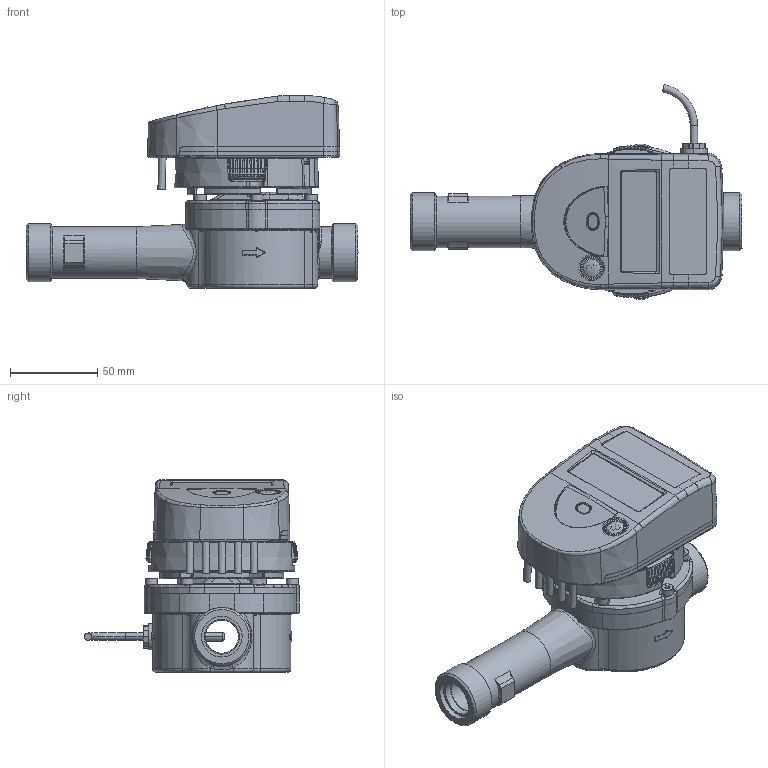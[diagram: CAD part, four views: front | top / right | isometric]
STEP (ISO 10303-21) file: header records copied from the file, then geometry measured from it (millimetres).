
FILE_DESCRIPTION(/* description */ ('Unknown'),/* implementation_level */ '2;1');
FILE_NAME(/* name */ '749_qp1.5_190mm avec calculateur et sonde JUMO (vide)',/* time_stamp */ '2022-09-16T11:37:40+02:00',/* author */ ('Unknown'),/* organization */ ('Unknown'),/* preprocessor_version */ 'ST-DEVELOPER v18.102',/* originating_system */ 'Solid Edge',/* authorisation */ 'Unknown');
FILE_SCHEMA (('AUTOMOTIVE_DESIGN {1 0 10303 214 3 1 1}'));
Length unit declared in the file: millimetre
Products named in the file (28): 749_qp1.5_190mm avec calculateur et sonde JUMO (vide); 0739P028; 0739P070; 0739P025; 0739P026; 0739P201 (schématique); Bague_P201_P202_P203; 0739P201 Câble 3 (Schématique); 0739P201_202_203 _204; 0739P201 Overmoulding Flowmeter Side Flowmeter Cable_OUTIL3D; gaine intérieure longue; gaine intérieure courte; 0739P020; 0739P021; 0739P022; 0739P024; 0749P073; 0739P023; 0739P201_202_203 _204_better waterproof; 0449P094; 0449P076; 0449P071; 00759783_vente_sonde Ø5; 00759783_AllCATPart_4_0; 00759783_AllCATPart_5_0; 00759783_AllCATPart_7_0; Flat rubber ringSLDPRT_0; cable ﾘ4.2
Assembly tree (37 placements, depth 3):
  749_qp1.5_190mm avec calculateur et sonde JUMO (vide)
    0739P028  x2
    0739P070
    0739P025
    0739P026
    0739P201 (schématique)  x5
      Bague_P201_P202_P203
      0739P201 Câble 3 (Schématique)
      0739P201_202_203 _204
      0739P201 Overmoulding Flowmeter Side Flowmeter Cable_OUTIL3D
      gaine intérieure longue
      gaine intérieure courte
    0739P020
    0739P021
    0739P022
    0739P024
    0749P073
    0739P023
    0739P201_202_203 _204_better waterproof
    0449P094  x6
    0449P076
    0449P071
    00759783_vente_sonde Ø5
      00759783_AllCATPart_4_0
      00759783_AllCATPart_5_0
      00759783_AllCATPart_7_0
      Flat rubber ringSLDPRT_0
      cable ﾘ4.2
Bounding box: 190 x 123.07 x 110.41 mm (x, y, z)
Volume: 272185.3 mm3; surface area: 195707.1 mm2
Topology: 55 solids, 55 shells, 4436 faces, 11560 edges, 7230 vertices
Faces by surface type: plane 1858, cylinder 1361, torus 617, cone 381, bspline 160, sphere 59
Full cylindrical faces by diameter (mm): 0.5 x6, 1 x6, 2 x1, 2.013 x2, 2.05 x2, 2.4 x2, 2.5 x2, 2.6 x2, 2.7 x6, 2.742 x1, 3.1 x1, 3.242 x6, 4 x7, 4.1 x16, 4.4 x6, 4.5 x10, 4.9 x5, 5 x2, 5.2 x1, 6 x2, 6.5 x6, 7 x6, 7.4 x1, 8.5 x4, 9.15 x1, 9.7 x1, 11.7 x1, 12 x1, 15 x1, 19 x2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
Entity records: 140173 total; most frequent: CARTESIAN_POINT 37787, ORIENTED_EDGE 19410, DIRECTION 18044, EDGE_CURVE 9705, AXIS2_PLACEMENT_3D 6989, VERTEX_POINT 6155, FACE_BOUND 4142, EDGE_LOOP 4133
